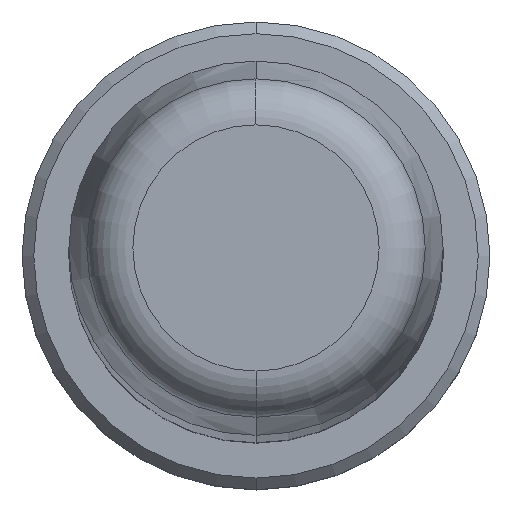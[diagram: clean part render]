
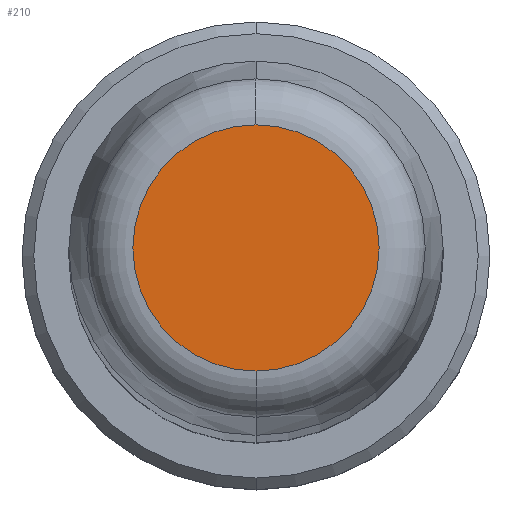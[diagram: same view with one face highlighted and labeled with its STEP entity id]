
A CAD part, top view. The second image highlights one B-rep face of the part: STEP entity #210.
In plain terms, the highlighted planar face has unit normal (0, 0, 1).
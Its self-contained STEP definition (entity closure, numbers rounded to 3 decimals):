
#1=CARTESIAN_POINT('',(0.,0.,200.));
#2=DIRECTION('',(0.,0.,-1.));
#3=DIRECTION('',(0.,-1.,0.));
#4=AXIS2_PLACEMENT_3D('',#1,#2,#3);
#6=CARTESIAN_POINT('',(0.,0.,200.));
#7=DIRECTION('',(0.,0.,-1.));
#8=DIRECTION('',(0.,1.,0.));
#9=AXIS2_PLACEMENT_3D('',#6,#7,#8);
#183=CARTESIAN_POINT('',(0.,-5.264,200.));
#184=CARTESIAN_POINT('',(0.,5.264,200.));
#185=VERTEX_POINT('',#183);
#186=VERTEX_POINT('',#184);
#199=CARTESIAN_POINT('',(0.,0.,200.));
#200=DIRECTION('',(0.,0.,1.));
#201=DIRECTION('',(0.,-1.,0.));
#202=AXIS2_PLACEMENT_3D('',#199,#200,#201);
#203=PLANE('',#202);
#205=ORIENTED_EDGE('',*,*,#204,.T.);
#207=ORIENTED_EDGE('',*,*,#206,.T.);
#208=EDGE_LOOP('',(#205,#207));
#209=FACE_OUTER_BOUND('',#208,.F.);
#210=ADVANCED_FACE('',(#209),#203,.T.);
#5=CIRCLE('',#4,5.264);
#10=CIRCLE('',#9,5.264);
#204=EDGE_CURVE('',#185,#186,#5,.T.);
#206=EDGE_CURVE('',#186,#185,#10,.T.);
